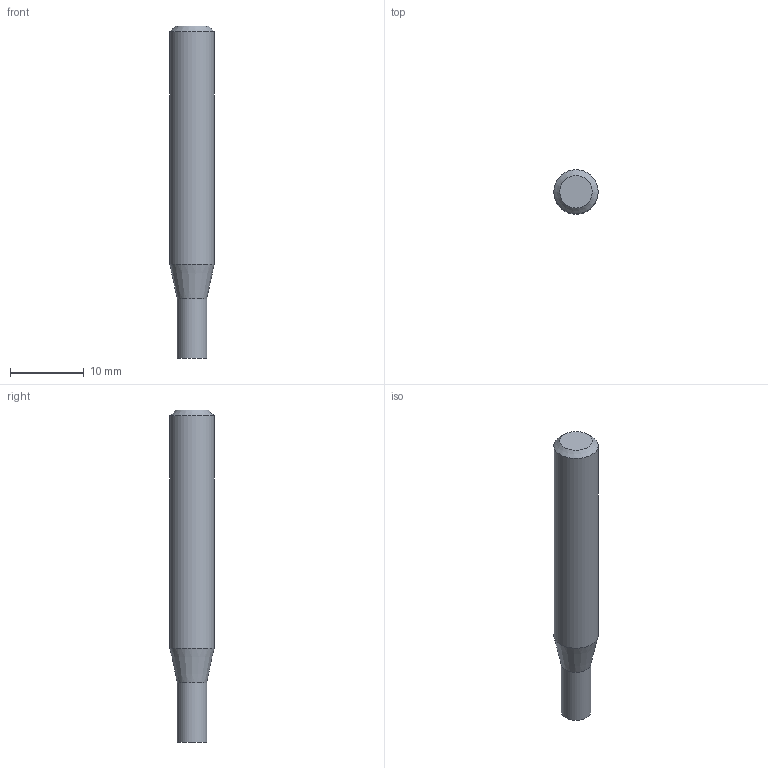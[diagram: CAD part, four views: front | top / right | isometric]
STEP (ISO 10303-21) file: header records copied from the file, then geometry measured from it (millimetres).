
FILE_DESCRIPTION((''),'2;1');
FILE_NAME('C:\Users\nsx150\AppData\Local\Temp\Mastercam 2021\E36A1X9CCL\TEMP.step','2023-04-21T15:12:53',(''),(''),'STEP Write','Mastercam 2021 ... CNC Software, Inc.','');
FILE_SCHEMA(('AUTOMOTIVE_DESIGN'));
Length unit declared in the file: millimetre
Products named in the file (1): None
Bounding box: 6 x 6 x 45 mm (x, y, z)
Volume: 1101.8 mm3; surface area: 841.1 mm2
Topology: 2 solids, 2 shells, 8 faces, 10 edges, 6 vertices
Faces by surface type: plane 4, cylinder 2, cone 2
Full cylindrical faces by diameter (mm): 4 x1, 6 x1
Entity records: 190 total; most frequent: DIRECTION 32, CARTESIAN_POINT 22, AXIS2_PLACEMENT_3D 16, ORIENTED_EDGE 12, EDGE_LOOP 12, STYLED_ITEM 11, ADVANCED_FACE 8, VERTEX_POINT 6
